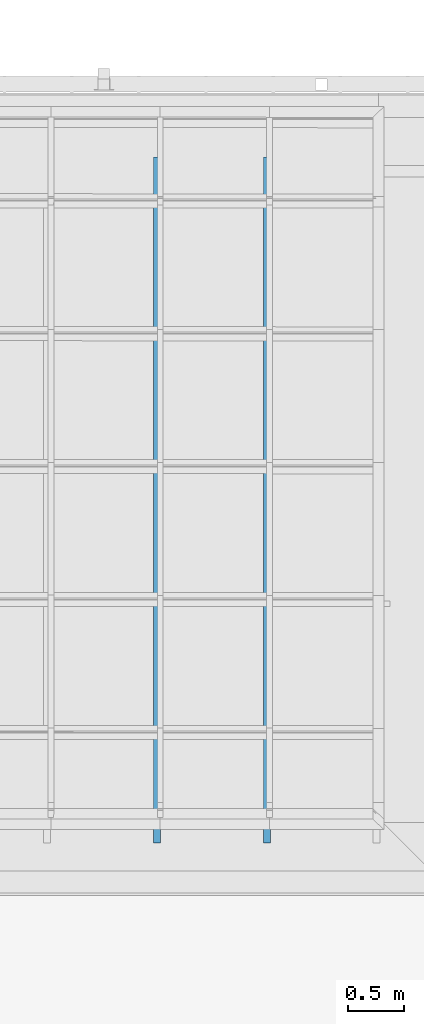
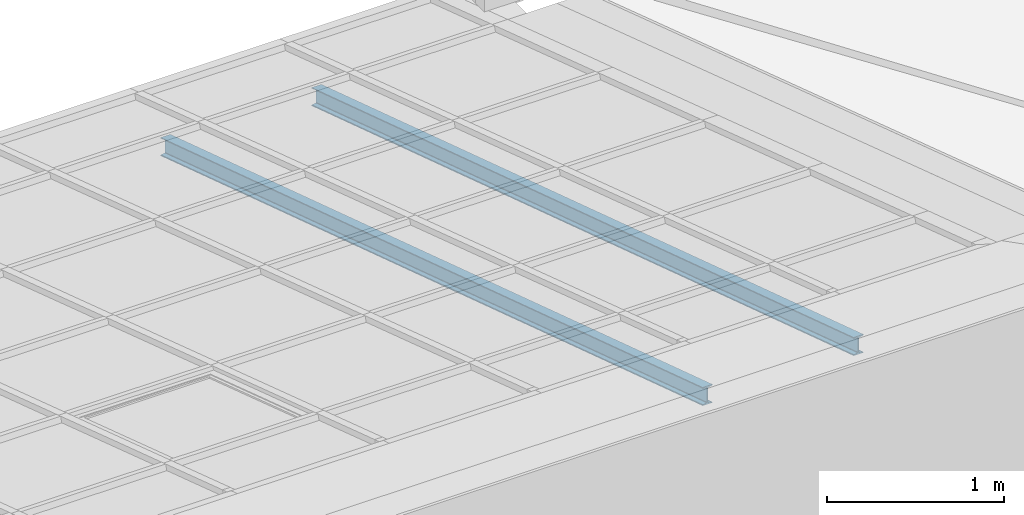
# One storey, part 12 of 47: 2 beams.
"""IFC2X3 building model written with IfcOpenShell, lengths in millimetres."""

import ifcopenshell
import ifcopenshell.guid

model = None  # the IFC model being written
_history = None  # IfcOwnerHistory: only IFC2X3 demands one
_inside = {}  # id of a spatial element -> (the spatial element, [elements in it])
_under = {}  # id of a project, library or spatial element -> (it, [spatial elements below it])
_declared = {}  # id of a project -> (the project, [libraries it declares])
_typed = {}  # id of a type object -> (the type object, [elements of that type])
_made_of = {}  # id of a material, layer set ... -> (it, [elements and type objects made of it])


def new_model(schema):
    """Start an empty IFC model of exactly this schema.

    Asked for "IFC4X3", IfcOpenShell would pick the latest addendum, in which some entities
    have other attributes; the version numbers below select the first issue.
    IFC2X3 requires an IfcOwnerHistory on every rooted entity: one is made here for all.
    """
    global model, _history
    if schema == "IFC4X3":
        model = ifcopenshell.file(schema_version=(4, 3, 0, 0))
    else:
        model = ifcopenshell.file(schema=schema)
    _inside.clear()
    _under.clear()
    _declared.clear()
    _typed.clear()
    _made_of.clear()
    _history = None
    if model.schema == "IFC2X3":
        org = make("IfcOrganization", Name="unknown")
        user = make(
            "IfcPersonAndOrganization",
            ThePerson=make("IfcPerson", FamilyName="unknown"),
            TheOrganization=org,
        )
        app = make(
            "IfcApplication",
            ApplicationDeveloper=org,
            Version="unknown",
            ApplicationFullName="unknown",
            ApplicationIdentifier="unknown",
        )
        _history = make(
            "IfcOwnerHistory",
            OwningUser=user,
            OwningApplication=app,
            ChangeAction="ADDED",
            CreationDate=0,
        )
    return model


def make(cls, **values):
    """One entity of the class cls with the attributes given. An attribute that is None is left unset."""
    return model.create_entity(
        cls, **{name: value for name, value in values.items() if value is not None}
    )


def entity(cls, *values):
    """Any entity or typed value of the class cls, its attributes in the order of the schema. None: left unset."""
    e = model.create_entity(cls)
    for i, value in enumerate(values):
        if value is not None:
            e[i] = value
    return e


def rooted(cls, **values):
    """An entity with a GlobalId (a new one), such as an element, a storey or a relation."""
    return make(cls, GlobalId=ifcopenshell.guid.new(), OwnerHistory=_history, **values)


def si_unit(unit_type, name, prefix=None):
    """IfcSIUnit, for example si_unit("LENGTHUNIT", "METRE", prefix="MILLI")."""
    return make("IfcSIUnit", UnitType=unit_type, Prefix=prefix, Name=name)


def converted_unit(unit_type, name, factor, base, dimensions=None, offset=None):
    """IfcConversionBasedUnit, such as the inch: factor (a typed value) times the base unit."""
    return make(
        "IfcConversionBasedUnit"
        if offset is None
        else "IfcConversionBasedUnitWithOffset",
        ConversionOffset=offset,
        Dimensions=None
        if dimensions is None
        else entity("IfcDimensionalExponents", *dimensions),
        UnitType=unit_type,
        Name=name,
        ConversionFactor=make(
            "IfcMeasureWithUnit", ValueComponent=factor, UnitComponent=base
        ),
    )


def derived_unit(unit_type, elements):
    """IfcDerivedUnit: a product of units, each with its exponent."""
    return make(
        "IfcDerivedUnit",
        Elements=[
            make("IfcDerivedUnitElement", Unit=unit, Exponent=power)
            for unit, power in elements
        ],
        UnitType=unit_type,
    )


def money_unit(currency):
    """IfcMonetaryUnit."""
    return make("IfcMonetaryUnit", Currency=currency)


def assignment(units):
    """IfcUnitAssignment: the units of a project."""
    return None if units is None else make("IfcUnitAssignment", Units=units)


def point(xyz):
    """IfcCartesianPoint."""
    return None if xyz is None else make("IfcCartesianPoint", Coordinates=xyz)


def direction(xyz):
    """IfcDirection."""
    return None if xyz is None else make("IfcDirection", DirectionRatios=xyz)


def frame(location, z_axis=None, x_axis=None):
    """IfcAxis2Placement3D, a coordinate frame: its origin and axes. An axis left out is left unset."""
    return make(
        "IfcAxis2Placement3D",
        Location=point(location),
        Axis=direction(z_axis),
        RefDirection=direction(x_axis),
    )


def frame_2d(location, x_axis=None):
    """IfcAxis2Placement2D, a coordinate frame in the plane: its origin and x axis."""
    return make(
        "IfcAxis2Placement2D", Location=point(location), RefDirection=direction(x_axis)
    )


def origin_with_axes():
    """The frame at (0, 0, 0) with the z axis (0, 0, 1) and the x axis (1, 0, 0) written out."""
    return frame((0.0, 0.0, 0.0), z_axis=(0.0, 0.0, 1.0), x_axis=(1.0, 0.0, 0.0))


def place(relative_to, where):
    """IfcLocalPlacement: puts the frame where relative to a parent placement (None: the world)."""
    return make(
        "IfcLocalPlacement", PlacementRelTo=relative_to, RelativePlacement=where
    )


def context(
    kind, dimensions, precision=None, world=None, true_north=None, identifier=None
):
    """IfcGeometricRepresentationContext, for example the 3D "Model" context."""
    return make(
        "IfcGeometricRepresentationContext",
        ContextIdentifier=identifier,
        ContextType=kind,
        CoordinateSpaceDimension=dimensions,
        Precision=precision,
        WorldCoordinateSystem=world,
        TrueNorth=true_north,
    )


def subcontext(parent, identifier, kind, view, scale=None):
    """IfcGeometricRepresentationSubContext, for example "Body" below "Model"."""
    return make(
        "IfcGeometricRepresentationSubContext",
        ContextIdentifier=identifier,
        ContextType=kind,
        ParentContext=parent,
        TargetScale=scale,
        TargetView=view,
    )


def project(units=None, contexts=None):
    """IfcProject with its units and contexts."""
    return rooted(
        "IfcProject",
        Name="project",
        RepresentationContexts=contexts,
        UnitsInContext=assignment(units),
    )


def spatial(cls, under=None, at=None, **own):
    """A site, building, storey or space (cls), placed at a placement, below another one or the project."""
    s = rooted(cls, ObjectPlacement=at, **own)
    if under is not None:
        _under.setdefault(under.id(), (under, []))[1].append(s)
    return s


def polyline(points):
    """IfcPolyline through the points."""
    return make("IfcPolyline", Points=[point(p) for p in points])


def circle_curve(where, radius):
    """IfcCircle in the frame where."""
    return make("IfcCircle", Position=where, Radius=radius)


def parameter(value):
    """IfcParameterValue: where a trimmed curve begins or ends, as a parameter of its basis curve."""
    return model.create_entity("IfcParameterValue", value)


def trimmed(basis, trim1, trim2, sense, master):
    """IfcTrimmedCurve: the piece of a basis curve between two trims."""
    return make(
        "IfcTrimmedCurve",
        BasisCurve=basis,
        Trim1=trim1,
        Trim2=trim2,
        SenseAgreement=sense,
        MasterRepresentation=master,
    )


def segment(curve, same_sense, transition):
    """IfcCompositeCurveSegment."""
    return make(
        "IfcCompositeCurveSegment",
        Transition=transition,
        SameSense=same_sense,
        ParentCurve=curve,
    )


def composite_curve(segments, self_intersect=None):
    """IfcCompositeCurve: segments joined end to end."""
    return make("IfcCompositeCurve", Segments=segments, SelfIntersect=self_intersect)


def outline(outer, holes=None, kind="AREA"):
    """IfcArbitraryClosedProfileDef: a profile drawn as a closed curve; with holes, ...WithVoids."""
    if holes is None:
        return make("IfcArbitraryClosedProfileDef", ProfileType=kind, OuterCurve=outer)
    return make(
        "IfcArbitraryProfileDefWithVoids",
        ProfileType=kind,
        OuterCurve=outer,
        InnerCurves=holes,
    )


def extrude(swept, where, along, depth):
    """IfcExtrudedAreaSolid: the profile swept, set in the frame where, extruded along a direction by depth."""
    return make(
        "IfcExtrudedAreaSolid",
        SweptArea=swept,
        Position=where,
        ExtrudedDirection=direction(along),
        Depth=depth,
    )


def clip(a, b, op="DIFFERENCE"):
    """IfcBooleanClippingResult: the solid a cut by the half space b."""
    return make(
        "IfcBooleanClippingResult", Operator=op, FirstOperand=a, SecondOperand=b
    )


def halfspace(plane, agree):
    """IfcHalfSpaceSolid: all space on one side of the plane z = 0 of the frame plane."""
    return make(
        "IfcHalfSpaceSolid",
        BaseSurface=make("IfcPlane", Position=plane),
        AgreementFlag=agree,
    )


def shape(context_of_items, identifier, shape_type, items):
    """IfcShapeRepresentation: the items that make up one representation, for example the "Body"."""
    return make(
        "IfcShapeRepresentation",
        ContextOfItems=context_of_items,
        RepresentationIdentifier=identifier,
        RepresentationType=shape_type,
        Items=items,
    )


def material(Name=None, Category=None):
    """IfcMaterial."""
    return make("IfcMaterial", Name=Name, Category=Category)


def made_of(thing, what):
    """Note that an element or type object is made of a material, layer set ...; save() writes the relation."""
    if what is not None:
        _made_of.setdefault(what.id(), (what, []))[1].append(thing)
    return thing


def type_object(cls, material=None, **own):
    """A type object (cls), such as IfcWallType, which elements share."""
    return made_of(rooted(cls, **own), material)


def element(
    cls,
    number,
    at=None,
    inside=None,
    cuts=None,
    type_object=None,
    material=None,
    context=None,
    identifier="Body",
    shape_type=None,
    held_by="IfcProductDefinitionShape",
    body=None,
    shapes=None,
    **own,
):
    """One element of the class cls, such as IfcWall. Its Tag is "e" and its number.

    at: its placement. inside: the storey or other place that contains it. cuts: it is an
    opening in that element (IfcRelVoidsElement). A single representation is given by context,
    identifier, shape_type and body (its items); several are given by shapes. held_by: the class
    of the entity that holds the representations. save() writes the other relations.
    """
    e = rooted(cls, Tag="e%d" % number, ObjectPlacement=at, **own)
    if body is not None:
        shapes = [shape(context, identifier, shape_type, body)]
    if shapes is not None:
        e.Representation = make(held_by, Representations=shapes)
    if inside is not None:
        _inside.setdefault(inside.id(), (inside, []))[1].append(e)
    if cuts is not None:
        rooted(
            "IfcRelVoidsElement", RelatingBuildingElement=cuts, RelatedOpeningElement=e
        )
    if type_object is not None:
        _typed.setdefault(type_object.id(), (type_object, []))[1].append(e)
    return made_of(e, material)


def aggregate(whole, parts):
    """IfcRelAggregates: a whole, such as a stair, and the parts it consists of."""
    return rooted("IfcRelAggregates", RelatingObject=whole, RelatedObjects=parts)


def save(model, path):
    """Write the relations noted so far, then the file.

    IfcRelAggregates (storeys below a building ...), IfcRelContainedInSpatialStructure (elements
    in a storey), IfcRelDefinesByType, IfcRelAssociatesMaterial and IfcRelDeclares: one each for
    every whole, place, type object, material and project.
    """
    for whole, parts in _under.values():
        aggregate(whole, parts)
    for where, things in _inside.values():
        rooted(
            "IfcRelContainedInSpatialStructure",
            RelatedElements=things,
            RelatingStructure=where,
        )
    for kind, things in _typed.values():
        rooted("IfcRelDefinesByType", RelatedObjects=things, RelatingType=kind)
    for what, things in _made_of.values():
        rooted("IfcRelAssociatesMaterial", RelatedObjects=things, RelatingMaterial=what)
    for by, libraries in _declared.values():
        rooted("IfcRelDeclares", RelatingContext=by, RelatedDefinitions=libraries)
    model.write(path)


model = new_model("IFC2X3")

# Units and contexts
model_context = context("Model", 3, precision=1e-05, world=origin_with_axes(), true_north=direction((0.0, 1.0)))
body_context = subcontext(model_context, "Body", "Model", "MODEL_VIEW")
ifc_project = project(units=[si_unit("LENGTHUNIT", "METRE", prefix="MILLI"), si_unit("AREAUNIT", "SQUARE_METRE"), si_unit("VOLUMEUNIT", "CUBIC_METRE"), converted_unit("PLANEANGLEUNIT", "DEGREE", entity("IfcPlaneAngleMeasure", 0.0174532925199), si_unit("PLANEANGLEUNIT", "RADIAN"), dimensions=[0, 0, 0, 0, 0, 0, 0]), si_unit("SOLIDANGLEUNIT", "STERADIAN"), money_unit("EUR"), converted_unit("TIMEUNIT", "Year", entity("IfcTimeMeasure", 31556926.0), si_unit("TIMEUNIT", "SECOND"), dimensions=[0, 0, 1, 0, 0, 0, 0]), si_unit("MASSUNIT", "GRAM", prefix="KILO"), si_unit("THERMODYNAMICTEMPERATUREUNIT", "DEGREE_CELSIUS"), si_unit("LUMINOUSINTENSITYUNIT", "LUMEN"), si_unit("ENERGYUNIT", "JOULE", prefix="MEGA"), derived_unit("THERMALCONDUCTANCEUNIT", [(si_unit("POWERUNIT", "WATT"), 1), (si_unit("LENGTHUNIT", "METRE"), -1), (si_unit("THERMODYNAMICTEMPERATUREUNIT", "KELVIN"), -1)]), derived_unit("SPECIFICHEATCAPACITYUNIT", [(si_unit("ENERGYUNIT", "JOULE"), 1), (si_unit("MASSUNIT", "GRAM", prefix="KILO"), -1), (si_unit("THERMODYNAMICTEMPERATUREUNIT", "KELVIN"), -1)]), derived_unit("MASSDENSITYUNIT", [(si_unit("MASSUNIT", "GRAM", prefix="KILO"), 1), (si_unit("VOLUMEUNIT", "CUBIC_METRE"), -1)])], contexts=[model_context])

# Site, building, storey
site_placement = place(None, origin_with_axes())
site = spatial("IfcSite", under=ifc_project, at=site_placement, Name="Site", CompositionType="ELEMENT")
building_placement = place(site_placement, origin_with_axes())
building = spatial("IfcBuilding", under=site, at=building_placement, Name="Building", CompositionType="ELEMENT")
storey_placement = place(building_placement, frame((0.0, 0.0, 6000.0), z_axis=(0.0, 0.0, 1.0), x_axis=(1.0, 0.0, 0.0)))
storey = spatial("IfcBuildingStorey", under=building, at=storey_placement, Name="KATUSEPLAAN", CompositionType="ELEMENT", Elevation=6000.0)

# Beams
ifc_material = material(Name="Teras (1)")
beam_type = type_object("IfcBeamType", Name="IPE 120", PredefinedType="NOTDEFINED")
beam_1_placement = place(storey_placement, frame((86835.081763, 46947.8063411, 711.763952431), z_axis=(0.0, 0.0, 1.0), x_axis=(-1.0, 0.0, 0.0)))
element("IfcBeam", 1, at=beam_1_placement, inside=storey, type_object=beam_type, material=ifc_material, Name="I Joist - Steel", ObjectType="I Joist - Steel 64 x 120", context=body_context, shape_type="Clipping", body=[
    clip(clip(extrude(outline(composite_curve([segment(polyline([(32.0018479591, -120.000212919), (32.0018479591, -117.505222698)]), True, "CONTINUOUS"), segment(trimmed(circle_curve(frame_2d((27.3321376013, -117.498683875), x_axis=(0.999999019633, -0.00140026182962)), 4.66971493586), [point((32.0018479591, -117.505222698)), parameter(0.0)], [point((31.7461003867, -115.974488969)), parameter(19.1306436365)], True, "CARTESIAN"), True, "CONTINUOUS"), segment(trimmed(circle_curve(frame_2d((27.8471066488, -117.309508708), x_axis=(0.94607823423, 0.323938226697)), 4.12121703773), [point((31.7461003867, -115.974488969)), parameter(0.0)], [point((31.017792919, -114.676795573)), parameter(20.802576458)], True, "CARTESIAN"), True, "CONTINUOUS"), segment(trimmed(circle_curve(frame_2d((28.4090653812, -116.837495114), x_axis=(0.770140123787, 0.637874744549)), 3.38734141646), [point((31.017792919, -114.676795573)), parameter(0.0)], [point((29.9278037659, -113.809704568)), parameter(23.7281511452)], True, "CARTESIAN"), True, "CONTINUOUS"), segment(trimmed(circle_curve(frame_2d((28.6333599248, -116.404648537), x_axis=(0.446378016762, 0.89484449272)), 2.89988259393), [point((29.9278037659, -113.809704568)), parameter(0.0)], [point((29.1110817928, -113.544386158)), parameter(17.0295027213)], True, "CARTESIAN"), True, "CONTINUOUS"), segment(polyline([(29.1110817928, -113.544386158), (5.24260801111, -109.566039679)]), True, "CONTINUOUS"), segment(trimmed(circle_curve(frame_2d((5.72032987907, -106.7057773), x_axis=(-0.446378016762, -0.89484449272)), 2.89988259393), [point((5.24260801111, -109.566039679)), parameter(17.0295027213)], [point((4.42588603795, -109.300721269)), parameter(0.0)], False, "CARTESIAN"), True, "CONTINUOUS"), segment(trimmed(circle_curve(frame_2d((5.94462442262, -106.272930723), x_axis=(-0.770140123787, -0.637874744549)), 3.38734141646), [point((4.42588603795, -109.300721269)), parameter(23.7281511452)], [point((3.33589688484, -108.433630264)), parameter(0.0)], False, "CARTESIAN"), True, "CONTINUOUS"), segment(trimmed(circle_curve(frame_2d((6.5065831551, -105.800917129), x_axis=(-0.94607823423, -0.323938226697)), 4.12121703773), [point((3.33589688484, -108.433630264)), parameter(20.802576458)], [point((2.60758941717, -107.135936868)), parameter(0.0)], False, "CARTESIAN"), True, "CONTINUOUS"), segment(trimmed(circle_curve(frame_2d((7.02155220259, -105.611741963), x_axis=(-0.999999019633, 0.00140026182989)), 4.66971493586), [point((2.60758941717, -107.135936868)), parameter(19.1306436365)], [point((2.35184184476, -105.605203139)), parameter(0.0)], False, "CARTESIAN"), True, "CONTINUOUS"), segment(polyline([(2.35184184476, -105.605203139), (2.35184184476, -14.3950097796)]), True, "CONTINUOUS"), segment(trimmed(circle_curve(frame_2d((7.02155220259, -14.3884709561), x_axis=(-0.945231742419, 0.326399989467)), 4.66971493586), [point((2.35184184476, -14.3950097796)), parameter(19.1306436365)], [point((2.60758941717, -12.8642760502)), parameter(0.0)], False, "CARTESIAN"), True, "CONTINUOUS"), segment(trimmed(circle_curve(frame_2d((6.5065831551, -14.1992957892), x_axis=(-0.769356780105, 0.638819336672)), 4.12121703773), [point((2.60758941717, -12.8642760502)), parameter(20.802576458)], [point((3.33589688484, -11.5665826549)), parameter(0.0)], False, "CARTESIAN"), True, "CONTINUOUS"), segment(trimmed(circle_curve(frame_2d((5.94462442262, -13.7272821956), x_axis=(-0.44835704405, 0.893854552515)), 3.38734141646), [point((3.33589688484, -11.5665826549)), parameter(23.7281511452)], [point((4.42588603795, -10.6994916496)), parameter(0.0)], False, "CARTESIAN"), True, "CONTINUOUS"), segment(trimmed(circle_curve(frame_2d((5.72032987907, -13.2944356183), x_axis=(-0.164738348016, 0.986337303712)), 2.89988259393), [point((4.42588603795, -10.6994916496)), parameter(17.0295027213)], [point((5.24260801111, -10.4341732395)), parameter(0.0)], False, "CARTESIAN"), True, "CONTINUOUS"), segment(polyline([(5.24260801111, -10.4341732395), (29.1110817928, -6.45582676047)]), True, "CONTINUOUS"), segment(trimmed(circle_curve(frame_2d((28.6333599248, -3.59556438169), x_axis=(0.164738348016, -0.986337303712)), 2.89988259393), [point((29.1110817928, -6.45582676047)), parameter(0.0)], [point((29.9278037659, -6.19050835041)), parameter(17.0295027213)], True, "CARTESIAN"), True, "CONTINUOUS"), segment(trimmed(circle_curve(frame_2d((28.4090653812, -3.16271780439), x_axis=(0.44835704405, -0.893854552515)), 3.38734141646), [point((29.9278037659, -6.19050835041)), parameter(0.0)], [point((31.017792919, -5.32341734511)), parameter(23.7281511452)], True, "CARTESIAN"), True, "CONTINUOUS"), segment(trimmed(circle_curve(frame_2d((27.8471066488, -2.69070421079), x_axis=(0.769356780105, -0.638819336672)), 4.12121703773), [point((31.017792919, -5.32341734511)), parameter(0.0)], [point((31.7461003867, -4.02572394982)), parameter(20.802576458)], True, "CARTESIAN"), True, "CONTINUOUS"), segment(trimmed(circle_curve(frame_2d((27.3321376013, -2.50152904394), x_axis=(0.945231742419, -0.326399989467)), 4.66971493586), [point((31.7461003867, -4.02572394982)), parameter(0.0)], [point((32.0018479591, -2.49499022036)), parameter(19.1306436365)], True, "CARTESIAN"), True, "CONTINUOUS"), segment(polyline([(32.0018479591, -2.49499022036), (32.0018479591, 0.0), (-32.0018479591, 0.0), (-32.0018479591, -2.49499022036)]), True, "CONTINUOUS"), segment(trimmed(circle_curve(frame_2d((-27.3321376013, -2.50152904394), x_axis=(-0.999999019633, 0.00140026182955)), 4.66971493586), [point((-32.0018479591, -2.49499022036)), parameter(0.0)], [point((-31.7461003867, -4.02572394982)), parameter(19.1306436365)], True, "CARTESIAN"), True, "CONTINUOUS"), segment(trimmed(circle_curve(frame_2d((-27.8471066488, -2.69070421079), x_axis=(-0.94607823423, -0.323938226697)), 4.12121703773), [point((-31.7461003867, -4.02572394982)), parameter(0.0)], [point((-31.017792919, -5.32341734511)), parameter(20.802576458)], True, "CARTESIAN"), True, "CONTINUOUS"), segment(trimmed(circle_curve(frame_2d((-28.4090653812, -3.16271780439), x_axis=(-0.770140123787, -0.637874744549)), 3.38734141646), [point((-31.017792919, -5.32341734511)), parameter(0.0)], [point((-29.9278037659, -6.19050835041)), parameter(23.7281511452)], True, "CARTESIAN"), True, "CONTINUOUS"), segment(trimmed(circle_curve(frame_2d((-28.6333599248, -3.59556438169), x_axis=(-0.446378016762, -0.89484449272)), 2.89988259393), [point((-29.9278037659, -6.19050835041)), parameter(0.0)], [point((-29.1110817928, -6.45582676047)), parameter(17.0295027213)], True, "CARTESIAN"), True, "CONTINUOUS"), segment(polyline([(-29.1110817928, -6.45582676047), (-5.24260801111, -10.4341732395)]), True, "CONTINUOUS"), segment(trimmed(circle_curve(frame_2d((-5.72032987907, -13.2944356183), x_axis=(0.446378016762, 0.89484449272)), 2.89988259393), [point((-5.24260801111, -10.4341732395)), parameter(17.0295027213)], [point((-4.42588603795, -10.6994916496)), parameter(0.0)], False, "CARTESIAN"), True, "CONTINUOUS"), segment(trimmed(circle_curve(frame_2d((-5.94462442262, -13.7272821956), x_axis=(0.770140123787, 0.637874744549)), 3.38734141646), [point((-4.42588603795, -10.6994916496)), parameter(23.7281511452)], [point((-3.33589688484, -11.5665826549)), parameter(0.0)], False, "CARTESIAN"), True, "CONTINUOUS"), segment(trimmed(circle_curve(frame_2d((-6.5065831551, -14.1992957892), x_axis=(0.94607823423, 0.323938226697)), 4.12121703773), [point((-3.33589688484, -11.5665826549)), parameter(20.802576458)], [point((-2.60758941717, -12.8642760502)), parameter(0.0)], False, "CARTESIAN"), True, "CONTINUOUS"), segment(trimmed(circle_curve(frame_2d((-7.02155220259, -14.3884709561), x_axis=(0.999999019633, -0.00140026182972)), 4.66971493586), [point((-2.60758941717, -12.8642760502)), parameter(19.1306436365)], [point((-2.35184184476, -14.3950097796)), parameter(0.0)], False, "CARTESIAN"), True, "CONTINUOUS"), segment(polyline([(-2.35184184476, -14.3950097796), (-2.35184184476, -105.605203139)]), True, "CONTINUOUS"), segment(trimmed(circle_curve(frame_2d((-7.02155220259, -105.611741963), x_axis=(0.945231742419, -0.326399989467)), 4.66971493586), [point((-2.35184184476, -105.605203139)), parameter(19.1306436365)], [point((-2.60758941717, -107.135936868)), parameter(0.0)], False, "CARTESIAN"), True, "CONTINUOUS"), segment(trimmed(circle_curve(frame_2d((-6.5065831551, -105.800917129), x_axis=(0.769356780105, -0.638819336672)), 4.12121703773), [point((-2.60758941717, -107.135936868)), parameter(20.802576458)], [point((-3.33589688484, -108.433630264)), parameter(0.0)], False, "CARTESIAN"), True, "CONTINUOUS"), segment(trimmed(circle_curve(frame_2d((-5.94462442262, -106.272930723), x_axis=(0.44835704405, -0.893854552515)), 3.38734141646), [point((-3.33589688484, -108.433630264)), parameter(23.7281511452)], [point((-4.42588603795, -109.300721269)), parameter(0.0)], False, "CARTESIAN"), True, "CONTINUOUS"), segment(trimmed(circle_curve(frame_2d((-5.72032987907, -106.7057773), x_axis=(0.164738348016, -0.986337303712)), 2.89988259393), [point((-4.42588603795, -109.300721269)), parameter(17.0295027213)], [point((-5.24260801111, -109.566039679)), parameter(0.0)], False, "CARTESIAN"), True, "CONTINUOUS"), segment(polyline([(-5.24260801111, -109.566039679), (-29.1110817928, -113.544386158)]), True, "CONTINUOUS"), segment(trimmed(circle_curve(frame_2d((-28.6333599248, -116.404648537), x_axis=(-0.164738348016, 0.986337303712)), 2.89988259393), [point((-29.1110817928, -113.544386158)), parameter(0.0)], [point((-29.9278037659, -113.809704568)), parameter(17.0295027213)], True, "CARTESIAN"), True, "CONTINUOUS"), segment(trimmed(circle_curve(frame_2d((-28.4090653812, -116.837495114), x_axis=(-0.44835704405, 0.893854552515)), 3.38734141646), [point((-29.9278037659, -113.809704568)), parameter(0.0)], [point((-31.017792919, -114.676795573)), parameter(23.7281511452)], True, "CARTESIAN"), True, "CONTINUOUS"), segment(trimmed(circle_curve(frame_2d((-27.8471066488, -117.309508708), x_axis=(-0.769356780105, 0.638819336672)), 4.12121703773), [point((-31.017792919, -114.676795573)), parameter(0.0)], [point((-31.7461003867, -115.974488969)), parameter(20.802576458)], True, "CARTESIAN"), True, "CONTINUOUS"), segment(trimmed(circle_curve(frame_2d((-27.3321376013, -117.498683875), x_axis=(-0.945231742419, 0.326399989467)), 4.66971493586), [point((-31.7461003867, -115.974488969)), parameter(0.0)], [point((-32.0018479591, -117.505222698)), parameter(19.1306436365)], True, "CARTESIAN"), True, "CONTINUOUS"), segment(polyline([(-32.0018479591, -117.505222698), (-32.0018479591, -120.000212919), (32.0018479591, -120.000212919)]), True, "CONTINUOUS")], self_intersect=False)), frame((0.0, 6177.44201598, 2007.17258333), z_axis=(0.0, 0.951056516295, 0.309016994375), x_axis=(-1.0, 0.0, 0.0)), (0.0, 0.0, -1.0), 6550.487721), halfspace(frame((0.0, 6125.0, 0.0), z_axis=(0.0, -1.0, 0.0), x_axis=(0.0, 0.0, -1.0)), True)), halfspace(frame((0.0, 0.0, 0.0), z_axis=(0.0, 1.0, 0.0), x_axis=(0.0, 0.0, 1.0)), True)),
])
beam_2_placement = place(storey_placement, frame((85850.04513, 46947.8063411, 711.763952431), z_axis=(0.0, 0.0, 1.0), x_axis=(-1.0, 0.0, 0.0)))
element("IfcBeam", 2, at=beam_2_placement, inside=storey, type_object=beam_type, material=ifc_material, Name="I Joist - Steel", ObjectType="I Joist - Steel 64 x 120", context=body_context, shape_type="Clipping", body=[
    clip(clip(extrude(outline(composite_curve([segment(polyline([(32.0018479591, -120.000212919), (32.0018479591, -117.505222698)]), True, "CONTINUOUS"), segment(trimmed(circle_curve(frame_2d((27.3321376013, -117.498683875), x_axis=(0.999999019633, -0.00140026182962)), 4.66971493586), [point((32.0018479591, -117.505222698)), parameter(0.0)], [point((31.7461003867, -115.974488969)), parameter(19.1306436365)], True, "CARTESIAN"), True, "CONTINUOUS"), segment(trimmed(circle_curve(frame_2d((27.8471066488, -117.309508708), x_axis=(0.94607823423, 0.323938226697)), 4.12121703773), [point((31.7461003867, -115.974488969)), parameter(0.0)], [point((31.017792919, -114.676795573)), parameter(20.802576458)], True, "CARTESIAN"), True, "CONTINUOUS"), segment(trimmed(circle_curve(frame_2d((28.4090653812, -116.837495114), x_axis=(0.770140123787, 0.637874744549)), 3.38734141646), [point((31.017792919, -114.676795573)), parameter(0.0)], [point((29.9278037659, -113.809704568)), parameter(23.7281511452)], True, "CARTESIAN"), True, "CONTINUOUS"), segment(trimmed(circle_curve(frame_2d((28.6333599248, -116.404648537), x_axis=(0.446378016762, 0.89484449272)), 2.89988259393), [point((29.9278037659, -113.809704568)), parameter(0.0)], [point((29.1110817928, -113.544386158)), parameter(17.0295027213)], True, "CARTESIAN"), True, "CONTINUOUS"), segment(polyline([(29.1110817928, -113.544386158), (5.24260801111, -109.566039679)]), True, "CONTINUOUS"), segment(trimmed(circle_curve(frame_2d((5.72032987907, -106.7057773), x_axis=(-0.446378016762, -0.89484449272)), 2.89988259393), [point((5.24260801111, -109.566039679)), parameter(17.0295027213)], [point((4.42588603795, -109.300721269)), parameter(0.0)], False, "CARTESIAN"), True, "CONTINUOUS"), segment(trimmed(circle_curve(frame_2d((5.94462442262, -106.272930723), x_axis=(-0.770140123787, -0.637874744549)), 3.38734141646), [point((4.42588603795, -109.300721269)), parameter(23.7281511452)], [point((3.33589688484, -108.433630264)), parameter(0.0)], False, "CARTESIAN"), True, "CONTINUOUS"), segment(trimmed(circle_curve(frame_2d((6.5065831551, -105.800917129), x_axis=(-0.94607823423, -0.323938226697)), 4.12121703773), [point((3.33589688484, -108.433630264)), parameter(20.802576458)], [point((2.60758941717, -107.135936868)), parameter(0.0)], False, "CARTESIAN"), True, "CONTINUOUS"), segment(trimmed(circle_curve(frame_2d((7.02155220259, -105.611741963), x_axis=(-0.999999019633, 0.00140026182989)), 4.66971493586), [point((2.60758941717, -107.135936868)), parameter(19.1306436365)], [point((2.35184184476, -105.605203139)), parameter(0.0)], False, "CARTESIAN"), True, "CONTINUOUS"), segment(polyline([(2.35184184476, -105.605203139), (2.35184184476, -14.3950097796)]), True, "CONTINUOUS"), segment(trimmed(circle_curve(frame_2d((7.02155220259, -14.3884709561), x_axis=(-0.945231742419, 0.326399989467)), 4.66971493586), [point((2.35184184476, -14.3950097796)), parameter(19.1306436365)], [point((2.60758941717, -12.8642760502)), parameter(0.0)], False, "CARTESIAN"), True, "CONTINUOUS"), segment(trimmed(circle_curve(frame_2d((6.5065831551, -14.1992957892), x_axis=(-0.769356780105, 0.638819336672)), 4.12121703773), [point((2.60758941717, -12.8642760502)), parameter(20.802576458)], [point((3.33589688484, -11.5665826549)), parameter(0.0)], False, "CARTESIAN"), True, "CONTINUOUS"), segment(trimmed(circle_curve(frame_2d((5.94462442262, -13.7272821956), x_axis=(-0.44835704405, 0.893854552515)), 3.38734141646), [point((3.33589688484, -11.5665826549)), parameter(23.7281511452)], [point((4.42588603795, -10.6994916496)), parameter(0.0)], False, "CARTESIAN"), True, "CONTINUOUS"), segment(trimmed(circle_curve(frame_2d((5.72032987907, -13.2944356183), x_axis=(-0.164738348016, 0.986337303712)), 2.89988259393), [point((4.42588603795, -10.6994916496)), parameter(17.0295027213)], [point((5.24260801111, -10.4341732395)), parameter(0.0)], False, "CARTESIAN"), True, "CONTINUOUS"), segment(polyline([(5.24260801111, -10.4341732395), (29.1110817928, -6.45582676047)]), True, "CONTINUOUS"), segment(trimmed(circle_curve(frame_2d((28.6333599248, -3.59556438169), x_axis=(0.164738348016, -0.986337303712)), 2.89988259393), [point((29.1110817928, -6.45582676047)), parameter(0.0)], [point((29.9278037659, -6.19050835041)), parameter(17.0295027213)], True, "CARTESIAN"), True, "CONTINUOUS"), segment(trimmed(circle_curve(frame_2d((28.4090653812, -3.16271780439), x_axis=(0.44835704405, -0.893854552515)), 3.38734141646), [point((29.9278037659, -6.19050835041)), parameter(0.0)], [point((31.017792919, -5.32341734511)), parameter(23.7281511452)], True, "CARTESIAN"), True, "CONTINUOUS"), segment(trimmed(circle_curve(frame_2d((27.8471066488, -2.69070421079), x_axis=(0.769356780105, -0.638819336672)), 4.12121703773), [point((31.017792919, -5.32341734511)), parameter(0.0)], [point((31.7461003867, -4.02572394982)), parameter(20.802576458)], True, "CARTESIAN"), True, "CONTINUOUS"), segment(trimmed(circle_curve(frame_2d((27.3321376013, -2.50152904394), x_axis=(0.945231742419, -0.326399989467)), 4.66971493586), [point((31.7461003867, -4.02572394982)), parameter(0.0)], [point((32.0018479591, -2.49499022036)), parameter(19.1306436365)], True, "CARTESIAN"), True, "CONTINUOUS"), segment(polyline([(32.0018479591, -2.49499022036), (32.0018479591, 0.0), (-32.0018479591, 0.0), (-32.0018479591, -2.49499022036)]), True, "CONTINUOUS"), segment(trimmed(circle_curve(frame_2d((-27.3321376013, -2.50152904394), x_axis=(-0.999999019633, 0.00140026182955)), 4.66971493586), [point((-32.0018479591, -2.49499022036)), parameter(0.0)], [point((-31.7461003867, -4.02572394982)), parameter(19.1306436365)], True, "CARTESIAN"), True, "CONTINUOUS"), segment(trimmed(circle_curve(frame_2d((-27.8471066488, -2.69070421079), x_axis=(-0.94607823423, -0.323938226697)), 4.12121703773), [point((-31.7461003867, -4.02572394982)), parameter(0.0)], [point((-31.017792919, -5.32341734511)), parameter(20.802576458)], True, "CARTESIAN"), True, "CONTINUOUS"), segment(trimmed(circle_curve(frame_2d((-28.4090653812, -3.16271780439), x_axis=(-0.770140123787, -0.637874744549)), 3.38734141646), [point((-31.017792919, -5.32341734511)), parameter(0.0)], [point((-29.9278037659, -6.19050835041)), parameter(23.7281511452)], True, "CARTESIAN"), True, "CONTINUOUS"), segment(trimmed(circle_curve(frame_2d((-28.6333599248, -3.59556438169), x_axis=(-0.446378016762, -0.89484449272)), 2.89988259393), [point((-29.9278037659, -6.19050835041)), parameter(0.0)], [point((-29.1110817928, -6.45582676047)), parameter(17.0295027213)], True, "CARTESIAN"), True, "CONTINUOUS"), segment(polyline([(-29.1110817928, -6.45582676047), (-5.24260801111, -10.4341732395)]), True, "CONTINUOUS"), segment(trimmed(circle_curve(frame_2d((-5.72032987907, -13.2944356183), x_axis=(0.446378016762, 0.89484449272)), 2.89988259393), [point((-5.24260801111, -10.4341732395)), parameter(17.0295027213)], [point((-4.42588603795, -10.6994916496)), parameter(0.0)], False, "CARTESIAN"), True, "CONTINUOUS"), segment(trimmed(circle_curve(frame_2d((-5.94462442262, -13.7272821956), x_axis=(0.770140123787, 0.637874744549)), 3.38734141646), [point((-4.42588603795, -10.6994916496)), parameter(23.7281511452)], [point((-3.33589688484, -11.5665826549)), parameter(0.0)], False, "CARTESIAN"), True, "CONTINUOUS"), segment(trimmed(circle_curve(frame_2d((-6.5065831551, -14.1992957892), x_axis=(0.94607823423, 0.323938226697)), 4.12121703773), [point((-3.33589688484, -11.5665826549)), parameter(20.802576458)], [point((-2.60758941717, -12.8642760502)), parameter(0.0)], False, "CARTESIAN"), True, "CONTINUOUS"), segment(trimmed(circle_curve(frame_2d((-7.02155220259, -14.3884709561), x_axis=(0.999999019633, -0.00140026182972)), 4.66971493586), [point((-2.60758941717, -12.8642760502)), parameter(19.1306436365)], [point((-2.35184184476, -14.3950097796)), parameter(0.0)], False, "CARTESIAN"), True, "CONTINUOUS"), segment(polyline([(-2.35184184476, -14.3950097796), (-2.35184184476, -105.605203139)]), True, "CONTINUOUS"), segment(trimmed(circle_curve(frame_2d((-7.02155220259, -105.611741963), x_axis=(0.945231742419, -0.326399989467)), 4.66971493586), [point((-2.35184184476, -105.605203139)), parameter(19.1306436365)], [point((-2.60758941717, -107.135936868)), parameter(0.0)], False, "CARTESIAN"), True, "CONTINUOUS"), segment(trimmed(circle_curve(frame_2d((-6.5065831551, -105.800917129), x_axis=(0.769356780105, -0.638819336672)), 4.12121703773), [point((-2.60758941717, -107.135936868)), parameter(20.802576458)], [point((-3.33589688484, -108.433630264)), parameter(0.0)], False, "CARTESIAN"), True, "CONTINUOUS"), segment(trimmed(circle_curve(frame_2d((-5.94462442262, -106.272930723), x_axis=(0.44835704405, -0.893854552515)), 3.38734141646), [point((-3.33589688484, -108.433630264)), parameter(23.7281511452)], [point((-4.42588603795, -109.300721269)), parameter(0.0)], False, "CARTESIAN"), True, "CONTINUOUS"), segment(trimmed(circle_curve(frame_2d((-5.72032987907, -106.7057773), x_axis=(0.164738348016, -0.986337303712)), 2.89988259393), [point((-4.42588603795, -109.300721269)), parameter(17.0295027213)], [point((-5.24260801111, -109.566039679)), parameter(0.0)], False, "CARTESIAN"), True, "CONTINUOUS"), segment(polyline([(-5.24260801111, -109.566039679), (-29.1110817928, -113.544386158)]), True, "CONTINUOUS"), segment(trimmed(circle_curve(frame_2d((-28.6333599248, -116.404648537), x_axis=(-0.164738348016, 0.986337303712)), 2.89988259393), [point((-29.1110817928, -113.544386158)), parameter(0.0)], [point((-29.9278037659, -113.809704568)), parameter(17.0295027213)], True, "CARTESIAN"), True, "CONTINUOUS"), segment(trimmed(circle_curve(frame_2d((-28.4090653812, -116.837495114), x_axis=(-0.44835704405, 0.893854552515)), 3.38734141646), [point((-29.9278037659, -113.809704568)), parameter(0.0)], [point((-31.017792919, -114.676795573)), parameter(23.7281511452)], True, "CARTESIAN"), True, "CONTINUOUS"), segment(trimmed(circle_curve(frame_2d((-27.8471066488, -117.309508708), x_axis=(-0.769356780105, 0.638819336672)), 4.12121703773), [point((-31.017792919, -114.676795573)), parameter(0.0)], [point((-31.7461003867, -115.974488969)), parameter(20.802576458)], True, "CARTESIAN"), True, "CONTINUOUS"), segment(trimmed(circle_curve(frame_2d((-27.3321376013, -117.498683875), x_axis=(-0.945231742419, 0.326399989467)), 4.66971493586), [point((-31.7461003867, -115.974488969)), parameter(0.0)], [point((-32.0018479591, -117.505222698)), parameter(19.1306436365)], True, "CARTESIAN"), True, "CONTINUOUS"), segment(polyline([(-32.0018479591, -117.505222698), (-32.0018479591, -120.000212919), (32.0018479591, -120.000212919)]), True, "CONTINUOUS")], self_intersect=False)), frame((0.0, 6177.44201598, 2007.17258333), z_axis=(0.0, 0.951056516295, 0.309016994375), x_axis=(-1.0, 0.0, 0.0)), (0.0, 0.0, -1.0), 6550.487721), halfspace(frame((0.0, 6125.0, 0.0), z_axis=(0.0, -1.0, 0.0), x_axis=(0.0, 0.0, -1.0)), True)), halfspace(frame((0.0, 0.0, 0.0), z_axis=(0.0, 1.0, 0.0), x_axis=(0.0, 0.0, 1.0)), True)),
])

save(model, "model.ifc")
